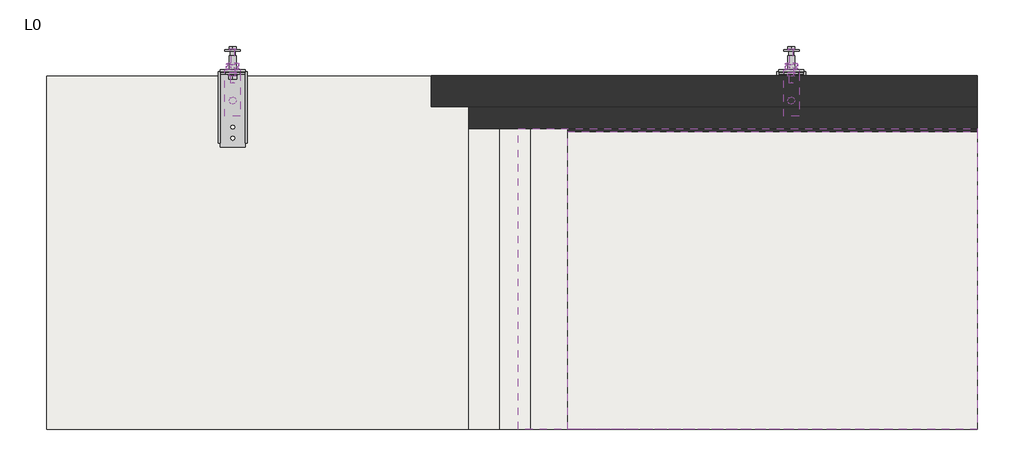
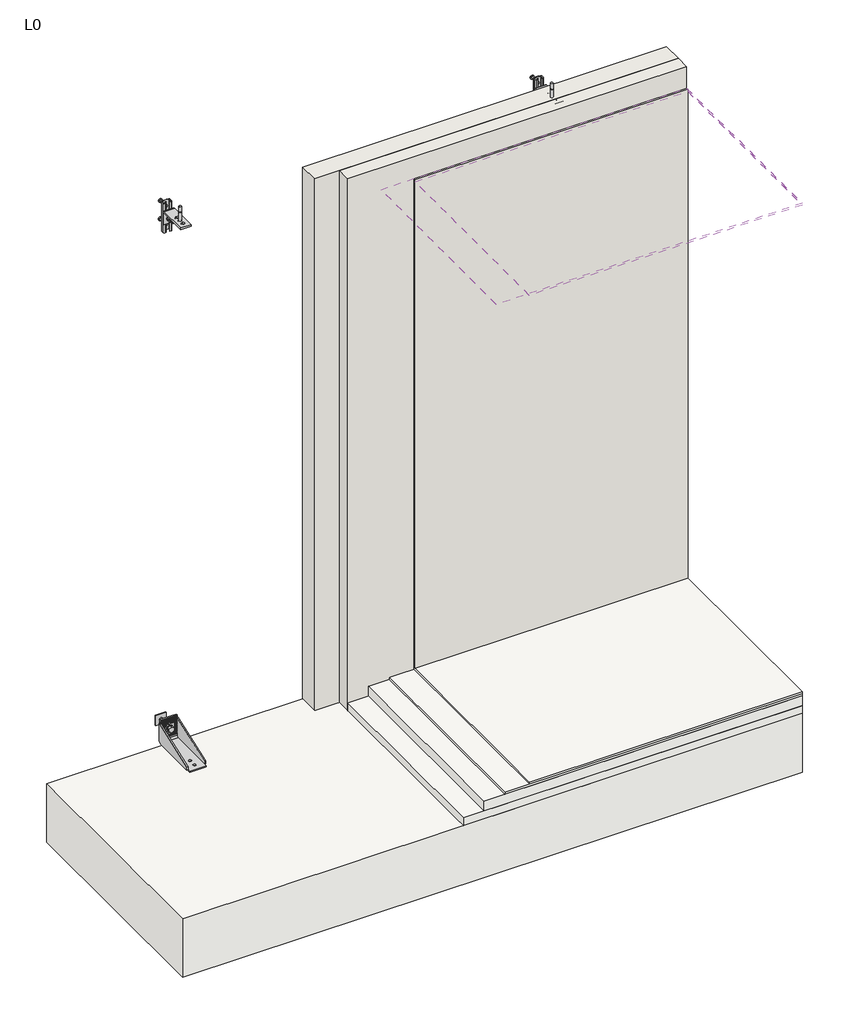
# One storey: 22 fasteners, 5 slabs, 3 walls, 2 coverings.
"""IFC4 building model written with IfcOpenShell, lengths in millimetres."""

from ifc_helpers import new_model, si_unit, frame, origin, origin_with_axes, place, context, project, spatial, polyline, outline, extrude, faceted_brep, transform, mapped, element, save
from components import fastener_4b0fadc4, fastener_2a2ea2da, fastener_e2884140, fastener_89f2e246, fastener_cdea0c5c, fastener_8cac4275, fastener_ba279adf, fastener_81d81b55, rec_aem12_100_aem12_100_46347e7a, rec_aem12_100_aem12_100_c00aaa73, rec_cpa448t17_cpa448t17_96b728d6, rec_cpa448t17_cpa448t17_6e9bf98b, rec_m16_45_m16_45_58386a80, rec_m16_45_m16_45_2a5d1326, rec_paa150708t14_paa150708t14_abbbcd53, rec_paa150708t14_paa150708t14_b81293e0, rec_ph4022_ph4022_520e7247, rec_ph4022_ph4022_34b11cd3, rec_tph1250_tph1250_56b32e52, rec_tph1250_tph1250_fb22594f

model = new_model("IFC4")

# Units and contexts
model_context = context("Model", 3, world=origin())
ifc_project = project(units=[si_unit("LENGTHUNIT", "METRE", prefix="MILLI")], contexts=[model_context])

# Site, building, storey
site = spatial("IfcSite", under=ifc_project)
building = spatial("IfcBuilding", under=site)
storey = spatial("IfcBuildingStorey", under=building, Name="L0", Elevation=0.0)

# Coverings
placement = place(None, origin())
element("IfcCovering", 1, ObjectType="Aislamiento", at=placement, inside=storey, context=model_context, shape_type="SweptSolid", body=[
    extrude(outline(polyline([(7887.7202663, 14794.5302953), (6407.7202663, 14794.5302953), (6407.7202663, 15764.5302953), (7887.7202663, 15764.5302953), (7887.7202663, 14794.5302953)])), frame((0.0, 0.0, 2610.0), z_axis=(0.0, 0.0, 1.0), x_axis=(1.0, 0.0, 0.0)), (0.0, 0.0, 1.0), 80.0),
])
element("IfcCovering", 2, ObjectType="Placa", at=placement, inside=storey, context=model_context, shape_type="SweptSolid", body=[
    extrude(outline(polyline([(7887.7202663, 14794.5302953), (6567.7202663, 14794.5302953), (6567.7202663, 15754.5302953), (7887.7202663, 15754.5302953), (7887.7202663, 14794.5302953)])), frame((0.0, 0.0, 2600.0), z_axis=(0.0, 0.0, 1.0), x_axis=(1.0, 0.0, 0.0)), (0.0, 0.0, 1.0), 10.0),
])

# Fasteners
fastener_shape = fastener_4b0fadc4(model_context)
element("IfcFastener", 3, ObjectType="REC-PARA2501208RT : PARA2501208RT", at=placement, inside=storey, context=model_context, shape_type="MappedRepresentation", body=[
    mapped(fastener_shape, transform((5487.7202663, 15954.5302953, 0.0), x_axis=(1.0, 0.0, 0.0), y_axis=(0.0, 1.0, 0.0), z_axis=(0.0, 0.0, 1.0))),
])
fastener_2_shape = fastener_2a2ea2da(model_context)
element("IfcFastener", 4, ObjectType="REC-HBP M16-75 EV : HBP M16-75 EV", at=placement, inside=storey, context=model_context, shape_type="MappedRepresentation", body=[
    mapped(fastener_2_shape, transform((5487.7202663, 15954.5302953, 72.0), x_axis=(1.0, 0.0, 0.0), y_axis=(0.0, 0.0, 1.0), z_axis=(0.0, -1.0, 0.0))),
])
fastener_3_shape = fastener_e2884140(model_context)
element("IfcFastener", 5, ObjectType="GEN-T-M12 : T-M12", at=placement, inside=storey, context=model_context, shape_type="MappedRepresentation", body=[
    mapped(fastener_3_shape, transform((5487.7202663, 15944.1302977, 2675.0), x_axis=(-1.0, 0.0, 0.0), y_axis=(0.0, 0.0, -1.0), z_axis=(0.0, -1.0, 0.0))),
])
fastener_4_shape = fastener_89f2e246(model_context)
element("IfcFastener", 6, ObjectType="GEN-A-M12 : A-M12", at=placement, inside=storey, context=model_context, shape_type="MappedRepresentation", body=[
    mapped(fastener_4_shape, transform((5487.7202663, 15946.5302953, 2675.0), x_axis=(-1.0, 0.0, 0.0), y_axis=(0.0, 0.0, -1.0), z_axis=(0.0, -1.0, 0.0))),
])
fastener_5_shape = fastener_cdea0c5c(model_context)
element("IfcFastener", 7, ObjectType="REC-HBP M16-75 EV : HBP M16-75 EV", at=placement, inside=storey, context=model_context, shape_type="MappedRepresentation", body=[
    mapped(fastener_5_shape, transform((7287.7202663, 15954.5302953, 72.0), x_axis=(-1.0, 0.0, 0.0), y_axis=(0.0, 0.0, -1.0), z_axis=(0.0, -1.0, 0.0))),
])
element("IfcFastener", 8, ObjectType="GEN-A-M12 : A-M12", at=placement, inside=storey, context=model_context, shape_type="MappedRepresentation", body=[
    mapped(fastener_4_shape, transform((7287.7202663, 15946.5302953, 2675.0), x_axis=(1.0, 0.0, 0.0), y_axis=(0.0, 0.0, 1.0), z_axis=(0.0, -1.0, 0.0))),
])
fastener_6_shape = fastener_8cac4275(model_context)
element("IfcFastener", 9, ObjectType="GEN-T-M12 : T-M12", at=placement, inside=storey, context=model_context, shape_type="MappedRepresentation", body=[
    mapped(fastener_6_shape, transform((7287.7202663, 15944.1302977, 2675.0), x_axis=(1.0, 0.0, 0.0), y_axis=(0.0, 0.0, 1.0), z_axis=(0.0, -1.0, 0.0))),
])
fastener_7_shape = fastener_ba279adf(model_context)
element("IfcFastener", 10, ObjectType="REC-PARA2501208RT : PARA2501208RT", at=placement, inside=storey, context=model_context, shape_type="MappedRepresentation", body=[
    mapped(fastener_7_shape, transform((7287.7202663, 15954.5302953, 0.0), x_axis=(-1.0, 0.0, 0.0), y_axis=(0.0, -1.0, 0.0), z_axis=(0.0, 0.0, 1.0))),
])
fastener_8_shape = fastener_81d81b55(model_context)
element("IfcFastener", 11, ObjectType="REC-A-M16 : A-M16", at=placement, inside=storey, context=model_context, shape_type="MappedRepresentation", body=[
    mapped(fastener_8_shape, transform((5487.7202663, 15939.9052953, 72.0), x_axis=(1.0, 0.0, 0.0), y_axis=(0.0, 0.0, 1.0), z_axis=(0.0, -1.0, 0.0))),
])
element("IfcFastener", 12, ObjectType="REC-A-M16 : A-M16", at=placement, inside=storey, context=model_context, shape_type="MappedRepresentation", body=[
    mapped(fastener_8_shape, transform((7287.7202663, 15939.9052953, 72.0), x_axis=(-1.0, 0.0, 0.0), y_axis=(0.0, 0.0, -1.0), z_axis=(0.0, -1.0, 0.0))),
])
rec_aem12_100_aem12_100_shape = rec_aem12_100_aem12_100_46347e7a(model_context)
element("IfcFastener", 13, ObjectType="REC-AEM12-100 : AEM12-100", at=placement, inside=storey, context=model_context, shape_type="MappedRepresentation", body=[
    mapped(rec_aem12_100_aem12_100_shape, transform((5487.7202663, 15854.5302953, 2712.0), x_axis=(-1.0, 0.0, 0.0), y_axis=(0.0, 1.0, 0.0), z_axis=(0.0, 0.0, -1.0))),
])
rec_aem12_100_aem12_100_2_shape = rec_aem12_100_aem12_100_c00aaa73(model_context)
element("IfcFastener", 14, ObjectType="REC-AEM12-100 : AEM12-100", at=placement, inside=storey, context=model_context, shape_type="MappedRepresentation", body=[
    mapped(rec_aem12_100_aem12_100_2_shape, transform((7287.7202663, 15854.5302953, 2712.0), x_axis=(1.0, 0.0, 0.0), y_axis=(0.0, -1.0, 0.0), z_axis=(0.0, 0.0, -1.0))),
])
rec_cpa448t17_cpa448t17_shape = rec_cpa448t17_cpa448t17_96b728d6(model_context)
element("IfcFastener", 15, ObjectType="REC-CPA448T17 : CPA448T17", at=placement, inside=storey, context=model_context, shape_type="MappedRepresentation", body=[
    mapped(rec_cpa448t17_cpa448t17_shape, transform((5487.7202663, 15947.9052953, 72.0), x_axis=(-1.0, 0.0, 0.0), y_axis=(0.0, 0.0, -1.0), z_axis=(0.0, -1.0, 0.0))),
])
rec_cpa448t17_cpa448t17_2_shape = rec_cpa448t17_cpa448t17_6e9bf98b(model_context)
element("IfcFastener", 16, ObjectType="REC-CPA448T17 : CPA448T17", at=placement, inside=storey, context=model_context, shape_type="MappedRepresentation", body=[
    mapped(rec_cpa448t17_cpa448t17_2_shape, transform((7287.7202663, 15947.9052953, 72.0), x_axis=(1.0, 0.0, 0.0), y_axis=(0.0, 0.0, 1.0), z_axis=(0.0, -1.0, 0.0))),
])
rec_m16_45_m16_45_shape = rec_m16_45_m16_45_58386a80(model_context)
element("IfcFastener", 17, ObjectType="REC-M16-45 : M16-45", at=placement, inside=storey, context=model_context, shape_type="MappedRepresentation", body=[
    mapped(rec_m16_45_m16_45_shape, transform((5487.7202663, 15936.9052953, 72.0), x_axis=(0.0, 0.0, 1.0), y_axis=(-1.0, 0.0, 0.0), z_axis=(0.0, -1.0, 0.0))),
])
rec_m16_45_m16_45_2_shape = rec_m16_45_m16_45_2a5d1326(model_context)
element("IfcFastener", 18, ObjectType="REC-M16-45 : M16-45", at=placement, inside=storey, context=model_context, shape_type="MappedRepresentation", body=[
    mapped(rec_m16_45_m16_45_2_shape, transform((7287.7202663, 15936.9052953, 72.0), x_axis=(0.0, 0.0, 1.0), y_axis=(-1.0, 0.0, 0.0), z_axis=(0.0, -1.0, 0.0))),
])
rec_paa150708t14_paa150708t14_shape = rec_paa150708t14_paa150708t14_abbbcd53(model_context)
element("IfcFastener", 19, ObjectType="REC-PAA150708T14 : PAA150708T14", at=placement, inside=storey, context=model_context, shape_type="MappedRepresentation", body=[
    mapped(rec_paa150708t14_paa150708t14_shape, transform((5487.7202663, 15954.5302953, 2720.0), x_axis=(-1.0, 0.0, 0.0), y_axis=(0.0, 0.0, -1.0), z_axis=(0.0, -1.0, 0.0))),
])
rec_paa150708t14_paa150708t14_2_shape = rec_paa150708t14_paa150708t14_b81293e0(model_context)
element("IfcFastener", 20, ObjectType="REC-PAA150708T14 : PAA150708T14", at=placement, inside=storey, context=model_context, shape_type="MappedRepresentation", body=[
    mapped(rec_paa150708t14_paa150708t14_2_shape, transform((7287.7202663, 15954.5302953, 2720.0), x_axis=(1.0, 0.0, 0.0), y_axis=(0.0, 0.0, 1.0), z_axis=(0.0, -1.0, 0.0))),
])
rec_ph4022_ph4022_shape = rec_ph4022_ph4022_520e7247(model_context)
element("IfcFastener", 21, ObjectType="REC-PH4022 : PH4022", at=placement, inside=storey, context=model_context, shape_type="MappedRepresentation", body=[
    mapped(rec_ph4022_ph4022_shape, transform((5487.7202663, 15954.5302953, 2675.0), x_axis=(0.0, 0.0, 1.0), y_axis=(-1.0, 0.0, 0.0), z_axis=(0.0, -1.0, 0.0))),
])
rec_ph4022_ph4022_2_shape = rec_ph4022_ph4022_34b11cd3(model_context)
element("IfcFastener", 22, ObjectType="REC-PH4022 : PH4022", at=placement, inside=storey, context=model_context, shape_type="MappedRepresentation", body=[
    mapped(rec_ph4022_ph4022_2_shape, transform((7287.7202663, 15954.5302953, 2675.0), x_axis=(0.0, 0.0, 1.0), y_axis=(-1.0, 0.0, 0.0), z_axis=(0.0, -1.0, 0.0))),
])
rec_tph1250_tph1250_shape = rec_tph1250_tph1250_56b32e52(model_context)
element("IfcFastener", 23, ObjectType="REC-TPH1250 : TPH1250", at=placement, inside=storey, context=model_context, shape_type="MappedRepresentation", body=[
    mapped(rec_tph1250_tph1250_shape, transform((5487.7202663, 15911.5355917, 2675.0), x_axis=(-1.0, 0.0, 0.0), y_axis=(0.0, 0.0, 1.0), z_axis=(0.0, 1.0, 0.0))),
])
rec_tph1250_tph1250_2_shape = rec_tph1250_tph1250_fb22594f(model_context)
element("IfcFastener", 24, ObjectType="REC-TPH1250 : TPH1250", at=placement, inside=storey, context=model_context, shape_type="MappedRepresentation", body=[
    mapped(rec_tph1250_tph1250_2_shape, transform((7287.7202663, 15911.5355917, 2675.0), x_axis=(1.0, 0.0, 0.0), y_axis=(0.0, 0.0, -1.0), z_axis=(0.0, 1.0, 0.0))),
])

# Slabs
element("IfcSlab", 25, ObjectType="DPG_Pegamento cemento", at=placement, inside=storey, context=model_context, shape_type="SweptSolid", body=[
    extrude(outline(polyline([(7887.7202663, 15764.5302953), (7887.7202663, 14794.5302953), (6447.7202663, 14794.5302953), (6447.7202663, 15764.5302953), (7887.7202663, 15764.5302953)])), frame((0.0, 0.0, 90.0), z_axis=(0.0, 0.0, 1.0), x_axis=(1.0, 0.0, 0.0)), (0.0, 0.0, 1.0), 10.0),
])
element("IfcSlab", 26, ObjectType="DPG_Aislamiento Suelo", at=placement, inside=storey, context=model_context, shape_type="SweptSolid", body=[
    extrude(outline(polyline([(7887.7202663, 15764.5302953), (7887.7202663, 14794.5302953), (6247.7202663, 14794.5302953), (6247.7202663, 15764.5302953), (7887.7202663, 15764.5302953)])), origin_with_axes(), (0.0, 0.0, 1.0), 40.0),
])
element("IfcSlab", 27, ObjectType="DPG_Ceramica", at=placement, inside=storey, context=model_context, shape_type="SweptSolid", body=[
    extrude(outline(polyline([(7887.7202663, 15764.5302953), (7887.7202663, 14794.5302953), (6567.7202663, 14794.5302953), (6567.7202663, 15764.5302953), (7887.7202663, 15764.5302953)])), frame((0.0, 0.0, 100.0), z_axis=(0.0, 0.0, 1.0), x_axis=(1.0, 0.0, 0.0)), (0.0, 0.0, 1.0), 10.0),
])
element("IfcSlab", 28, ObjectType="DPG_Losa Principal Obra", at=placement, inside=storey, context=model_context, shape_type="SweptSolid", body=[
    extrude(outline(polyline([(7887.7202663, 15934.5302953), (7887.7202663, 14794.5302953), (4887.7202663, 14794.5302953), (4887.7202663, 15934.5302953), (7887.7202663, 15934.5302953)])), frame((0.0, 0.0, -300.0), z_axis=(0.0, 0.0, 1.0), x_axis=(1.0, 0.0, 0.0)), (0.0, 0.0, 1.0), 300.0),
])
element("IfcSlab", 29, ObjectType="DPG_Recrecido", at=placement, inside=storey, context=model_context, shape_type="SweptSolid", body=[
    extrude(outline(polyline([(7887.7202663, 15764.5302953), (7887.7202663, 14794.5302953), (6347.7202663, 14794.5302953), (6347.7202663, 15764.5302953), (7887.7202663, 15764.5302953)])), frame((0.0, 0.0, 40.0), z_axis=(0.0, 0.0, 1.0), x_axis=(1.0, 0.0, 0.0)), (0.0, 0.0, 1.0), 50.0),
])

# Walls
element("IfcWall", 30, ObjectType="DPG_Aislamiento", at=placement, inside=storey, context=model_context, shape_type="SweptSolid", body=[
    extrude(outline(polyline([(7887.7202663, 15834.5302953), (6127.7202663, 15834.5302953), (6127.7202663, 15934.5302953), (7887.7202663, 15934.5302953), (7887.7202663, 15834.5302953)])), origin_with_axes(), (0.0, 0.0, 1.0), 2720.0),
])
element("IfcWall", 31, ObjectType="DPG_Enlucido", at=placement, inside=storey, context=model_context, shape_type="SweptSolid", body=[
    extrude(outline(polyline([(7887.7202663, 15754.5302953), (6567.7202663, 15754.5302953), (6567.7202663, 15764.5302953), (7887.7202663, 15764.5302953), (7887.7202663, 15754.5302953)])), frame((0.0, 0.0, 110.0), z_axis=(0.0, 0.0, 1.0), x_axis=(1.0, 0.0, 0.0)), (0.0, 0.0, 1.0), 2500.0),
])
element("IfcWall", 32, ObjectType="DPG_Ladrillo", at=placement, inside=storey, context=model_context, shape_type="Brep", body=[
    faceted_brep([(6247.7202663, 15764.5302953, 0.0), (7887.7202663, 15764.5302953, 0.0), (7887.7202663, 15764.5302953, 40.0), (7887.7202663, 15764.5302953, 90.0), (7887.7202663, 15764.5302953, 100.0), (7887.7202663, 15764.5302953, 110.0), (7887.7202663, 15764.5302953, 2720.0), (6247.7202663, 15764.5302953, 2720.0), (6247.7202663, 15834.5302953, 0.0), (6247.7202663, 15834.5302953, 2720.0), (7887.7202663, 15834.5302953, 2720.0), (7887.7202663, 15834.5302953, 0.0)], [[[0, 1, 2, 3, 4, 5, 6, 7]], [[8, 9, 10, 11]], [[1, 0, 8, 11]], [[6, 5, 4, 3, 2, 1, 11, 10]], [[7, 6, 10, 9]], [[0, 7, 9, 8]]]),
])

save(model, "model.ifc")
